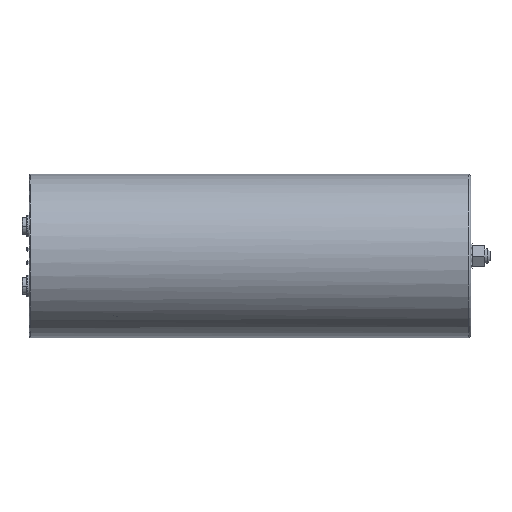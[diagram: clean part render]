
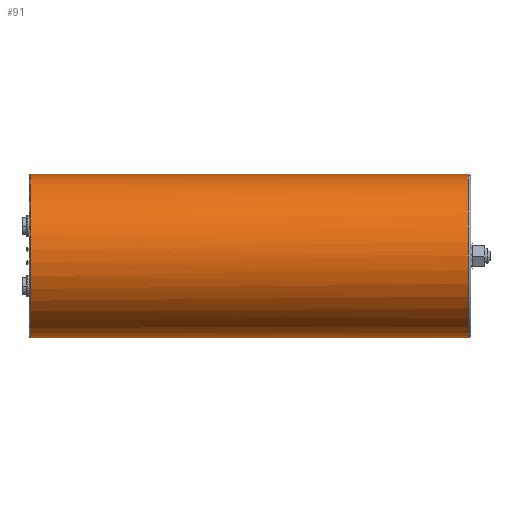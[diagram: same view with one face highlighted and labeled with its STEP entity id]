
A CAD part, left-side view. The second image highlights one B-rep face of the part: STEP entity #91.
In plain terms, the highlighted cylindrical face has radius 68 mm (diameter 136 mm), a partial arc.
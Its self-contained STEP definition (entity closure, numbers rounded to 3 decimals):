
#52 = DIRECTION ( 'NONE',  ( 0., -1., 0. ) ) ;
#57 = AXIS2_PLACEMENT_3D ( 'NONE', #6902, #709, #148 ) ;
#91 = ADVANCED_FACE ( 'NONE', ( #903 ), #5344, .T. ) ;
#148 = DIRECTION ( 'NONE',  ( -0.737, 0., 0.676 ) ) ;
#268 = DIRECTION ( 'NONE',  ( 0., 0., -1. ) ) ;
#709 = DIRECTION ( 'NONE',  ( 0., -1., 0. ) ) ;
#741 = ORIENTED_EDGE ( 'NONE', *, *, #2815, .T. ) ;
#903 = FACE_OUTER_BOUND ( 'NONE', #3922, .T. ) ;
#1017 = CIRCLE ( 'NONE', #7178, 68. ) ;
#1397 = DIRECTION ( 'NONE',  ( 0., -1., 0. ) ) ;
#1430 = CARTESIAN_POINT ( 'NONE',  ( 0., 0., 0. ) ) ;
#1435 = VERTEX_POINT ( 'NONE', #5961 ) ;
#1669 = VERTEX_POINT ( 'NONE', #6327 ) ;
#1834 = CARTESIAN_POINT ( 'NONE',  ( 0., 367., 0. ) ) ;
#2122 = DIRECTION ( 'NONE',  ( 0., 0., -1. ) ) ;
#2165 = ORIENTED_EDGE ( 'NONE', *, *, #4354, .T. ) ;
#2307 = VECTOR ( 'NONE', #5514, 1000. ) ;
#2582 = EDGE_CURVE ( 'NONE', #1669, #3671, #5022, .T. ) ;
#2798 = VERTEX_POINT ( 'NONE', #6090 ) ;
#2815 = EDGE_CURVE ( 'NONE', #1435, #2798, #1017, .T. ) ;
#2938 = CARTESIAN_POINT ( 'NONE',  ( 0., 367., -68. ) ) ;
#3222 = CARTESIAN_POINT ( 'NONE',  ( 0., 0., -68. ) ) ;
#3671 = VERTEX_POINT ( 'NONE', #2938 ) ;
#3726 = CIRCLE ( 'NONE', #5007, 68. ) ;
#3783 = CARTESIAN_POINT ( 'NONE',  ( 0., 0., 68. ) ) ;
#3922 = EDGE_LOOP ( 'NONE', ( #5924, #7231, #6150, #2165, #741 ) ) ;
#4315 = EDGE_CURVE ( 'NONE', #6559, #2798, #6084, .T. ) ;
#4323 = VECTOR ( 'NONE', #4927, 1000. ) ;
#4354 = EDGE_CURVE ( 'NONE', #3671, #1435, #6604, .T. ) ;
#4583 = DIRECTION ( 'NONE',  ( -0.737, 0., 0.676 ) ) ;
#4927 = DIRECTION ( 'NONE',  ( 0., -1., 0. ) ) ;
#4932 = CARTESIAN_POINT ( 'NONE',  ( 0., 2., 0. ) ) ;
#5007 = AXIS2_PLACEMENT_3D ( 'NONE', #1834, #52, #4583 ) ;
#5022 = CIRCLE ( 'NONE', #57, 68. ) ;
#5344 = CYLINDRICAL_SURFACE ( 'NONE', #5440, 68. ) ;
#5407 = EDGE_CURVE ( 'NONE', #6559, #1669, #3726, .T. ) ;
#5440 = AXIS2_PLACEMENT_3D ( 'NONE', #1430, #1397, #268 ) ;
#5514 = DIRECTION ( 'NONE',  ( 0., -1., 0. ) ) ;
#5924 = ORIENTED_EDGE ( 'NONE', *, *, #4315, .F. ) ;
#5961 = CARTESIAN_POINT ( 'NONE',  ( 0., 2., -68. ) ) ;
#6084 = LINE ( 'NONE', #3783, #2307 ) ;
#6090 = CARTESIAN_POINT ( 'NONE',  ( 0., 2., 68. ) ) ;
#6150 = ORIENTED_EDGE ( 'NONE', *, *, #2582, .T. ) ;
#6327 = CARTESIAN_POINT ( 'NONE',  ( -50.101, 367., 45.977 ) ) ;
#6534 = CARTESIAN_POINT ( 'NONE',  ( 0., 367., 68. ) ) ;
#6559 = VERTEX_POINT ( 'NONE', #6534 ) ;
#6604 = LINE ( 'NONE', #3222, #4323 ) ;
#6902 = CARTESIAN_POINT ( 'NONE',  ( 0., 367., 0. ) ) ;
#7178 = AXIS2_PLACEMENT_3D ( 'NONE', #4932, #7207, #2122 ) ;
#7207 = DIRECTION ( 'NONE',  ( 0., 1., 0. ) ) ;
#7231 = ORIENTED_EDGE ( 'NONE', *, *, #5407, .T. ) ;
